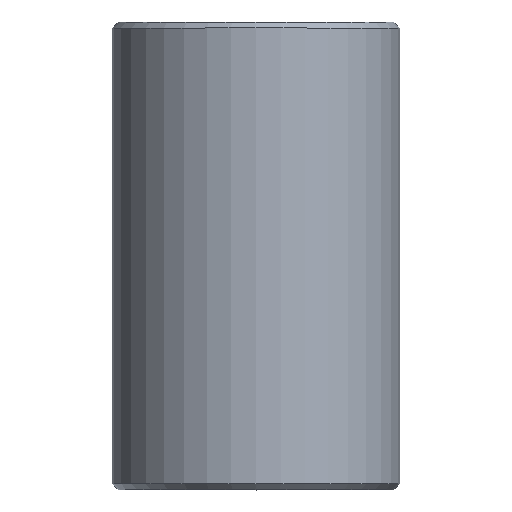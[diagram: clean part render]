
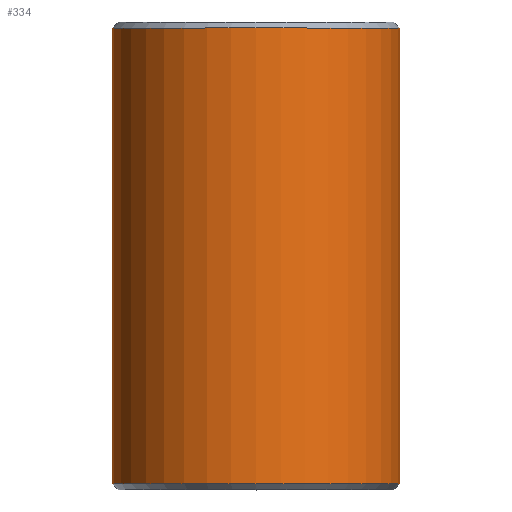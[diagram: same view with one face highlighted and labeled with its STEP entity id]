
A CAD part, top view. The second image highlights one B-rep face of the part: STEP entity #334.
In plain terms, the highlighted cylindrical face has radius 12 mm (diameter 24 mm), a partial arc.
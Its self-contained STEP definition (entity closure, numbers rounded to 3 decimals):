
#103=DIRECTION('',(0.,1.,0.));
#104=VECTOR('',#103,38.);
#105=CARTESIAN_POINT('',(12.,0.5,
0.));
#106=LINE('',#105,#104);
#107=CARTESIAN_POINT('',(0.,38.5,0.));
#108=DIRECTION('',(0.,1.,0.));
#109=DIRECTION('',(-1.,0.,0.));
#110=AXIS2_PLACEMENT_3D('',#107,#108,#109);
#112=CARTESIAN_POINT('',(0.,0.5,0.));
#113=DIRECTION('',(0.,-1.,0.));
#114=DIRECTION('',(1.,0.,0.));
#115=AXIS2_PLACEMENT_3D('',#112,#113,#114);
#117=DIRECTION('',(0.,1.,0.));
#118=VECTOR('',#117,38.);
#119=CARTESIAN_POINT('',(-12.,0.5,
0.));
#120=LINE('',#119,#118);
#141=CARTESIAN_POINT('',(-12.,38.5,0.));
#142=CARTESIAN_POINT('',(12.,38.5,0.));
#143=VERTEX_POINT('',#141);
#144=VERTEX_POINT('',#142);
#157=CARTESIAN_POINT('',(-12.,0.5,0.));
#158=CARTESIAN_POINT('',(12.,0.5,0.));
#159=VERTEX_POINT('',#157);
#160=VERTEX_POINT('',#158);
#322=CARTESIAN_POINT('',(0.,0.,0.));
#323=DIRECTION('',(0.,1.,0.));
#324=DIRECTION('',(1.,0.,0.));
#325=AXIS2_PLACEMENT_3D('',#322,#323,#324);
#326=CYLINDRICAL_SURFACE('',#325,12.);
#327=ORIENTED_EDGE('',*,*,#287,.T.);
#328=ORIENTED_EDGE('',*,*,#317,.F.);
#330=ORIENTED_EDGE('',*,*,#329,.T.);
#331=ORIENTED_EDGE('',*,*,#313,.T.);
#332=EDGE_LOOP('',(#327,#328,#330,#331));
#333=FACE_OUTER_BOUND('',#332,.F.);
#111=CIRCLE('',#110,12.);
#116=CIRCLE('',#115,12.);
#287=EDGE_CURVE('',#143,#144,#111,.T.);
#313=EDGE_CURVE('',#159,#143,#120,.T.);
#317=EDGE_CURVE('',#160,#144,#106,.T.);
#329=EDGE_CURVE('',#160,#159,#116,.T.);
#334=ADVANCED_FACE('',(#333),#326,.T.);
